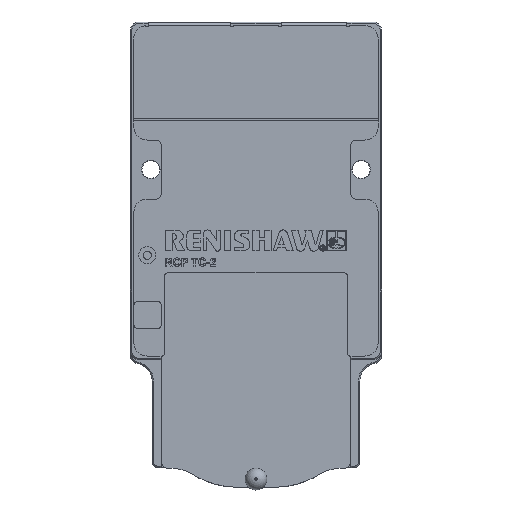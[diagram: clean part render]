
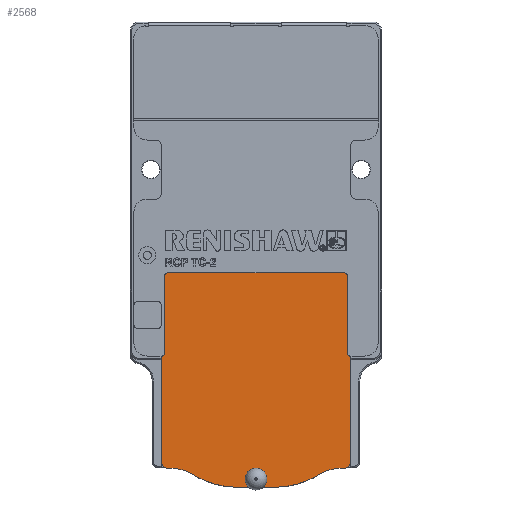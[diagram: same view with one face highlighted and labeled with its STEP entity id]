
A CAD part, top view. The second image highlights one B-rep face of the part: STEP entity #2568.
In plain terms, the highlighted planar face has unit normal (0, 0, 1).
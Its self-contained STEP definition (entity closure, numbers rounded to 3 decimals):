
#902=FACE_BOUND('',#3396,.T.);
#903=FACE_BOUND('',#3397,.T.);
#1207=CIRCLE('',#7696,32.071);
#1208=CIRCLE('',#7697,32.071);
#1209=CIRCLE('',#7698,15.);
#1210=CIRCLE('',#7699,2.);
#1211=CIRCLE('',#7700,8.2);
#1212=CIRCLE('',#7701,8.2);
#1213=CIRCLE('',#7702,2.);
#1214=CIRCLE('',#7703,15.);
#1215=CIRCLE('',#7704,2.8);
#1702=LINE('',#11897,#2226);
#1703=LINE('',#11903,#2227);
#1704=LINE('',#11907,#2228);
#1705=LINE('',#11911,#2229);
#1706=LINE('',#11915,#2230);
#1707=LINE('',#11919,#2231);
#2226=VECTOR('',#9208,1.);
#2227=VECTOR('',#9213,1.);
#2228=VECTOR('',#9216,1.);
#2229=VECTOR('',#9219,1.);
#2230=VECTOR('',#9222,1.);
#2231=VECTOR('',#9225,1.);
#2568=ADVANCED_FACE('',(#902,#903),#2777,.T.);
#2777=PLANE('',#7705);
#3396=EDGE_LOOP('',(#5098,#5099,#5100,#5101,#5102,#5103,#5104,#5105,#5106,
#5107,#5108,#5109,#5110,#5111));
#3397=EDGE_LOOP('',(#5112));
#5098=ORIENTED_EDGE('',*,*,#6910,.F.);
#5099=ORIENTED_EDGE('',*,*,#6911,.F.);
#5100=ORIENTED_EDGE('',*,*,#6912,.T.);
#5101=ORIENTED_EDGE('',*,*,#6913,.T.);
#5102=ORIENTED_EDGE('',*,*,#6914,.F.);
#5103=ORIENTED_EDGE('',*,*,#6915,.T.);
#5104=ORIENTED_EDGE('',*,*,#6916,.F.);
#5105=ORIENTED_EDGE('',*,*,#6917,.T.);
#5106=ORIENTED_EDGE('',*,*,#6918,.F.);
#5107=ORIENTED_EDGE('',*,*,#6919,.T.);
#5108=ORIENTED_EDGE('',*,*,#6920,.F.);
#5109=ORIENTED_EDGE('',*,*,#6921,.T.);
#5110=ORIENTED_EDGE('',*,*,#6922,.T.);
#5111=ORIENTED_EDGE('',*,*,#6923,.T.);
#5112=ORIENTED_EDGE('',*,*,#6924,.T.);
#5995=VERTEX_POINT('',#11895);
#5996=VERTEX_POINT('',#11896);
#5997=VERTEX_POINT('',#11898);
#5998=VERTEX_POINT('',#11900);
#5999=VERTEX_POINT('',#11902);
#6000=VERTEX_POINT('',#11904);
#6001=VERTEX_POINT('',#11906);
#6002=VERTEX_POINT('',#11908);
#6003=VERTEX_POINT('',#11910);
#6004=VERTEX_POINT('',#11912);
#6005=VERTEX_POINT('',#11914);
#6006=VERTEX_POINT('',#11916);
#6007=VERTEX_POINT('',#11918);
#6008=VERTEX_POINT('',#11920);
#6009=VERTEX_POINT('',#11923);
#6910=EDGE_CURVE('',#5995,#5996,#1207,.T.);
#6911=EDGE_CURVE('',#5997,#5995,#1702,.T.);
#6912=EDGE_CURVE('',#5997,#5998,#1208,.T.);
#6913=EDGE_CURVE('',#5998,#5999,#1209,.T.);
#6914=EDGE_CURVE('',#6000,#5999,#1703,.T.);
#6915=EDGE_CURVE('',#6000,#6001,#1210,.T.);
#6916=EDGE_CURVE('',#6002,#6001,#1704,.T.);
#6917=EDGE_CURVE('',#6002,#6003,#1211,.T.);
#6918=EDGE_CURVE('',#6004,#6003,#1705,.T.);
#6919=EDGE_CURVE('',#6004,#6005,#1212,.T.);
#6920=EDGE_CURVE('',#6006,#6005,#1706,.T.);
#6921=EDGE_CURVE('',#6006,#6007,#1213,.T.);
#6922=EDGE_CURVE('',#6007,#6008,#1707,.T.);
#6923=EDGE_CURVE('',#6008,#5996,#1214,.T.);
#6924=EDGE_CURVE('',#6009,#6009,#1215,.T.);
#7696=AXIS2_PLACEMENT_3D('',#11894,#9206,#9207);
#7697=AXIS2_PLACEMENT_3D('',#11899,#9209,#9210);
#7698=AXIS2_PLACEMENT_3D('',#11901,#9211,#9212);
#7699=AXIS2_PLACEMENT_3D('',#11905,#9214,#9215);
#7700=AXIS2_PLACEMENT_3D('',#11909,#9217,#9218);
#7701=AXIS2_PLACEMENT_3D('',#11913,#9220,#9221);
#7702=AXIS2_PLACEMENT_3D('',#11917,#9223,#9224);
#7703=AXIS2_PLACEMENT_3D('',#11921,#9226,#9227);
#7704=AXIS2_PLACEMENT_3D('',#11922,#9228,#9229);
#7705=AXIS2_PLACEMENT_3D('',#11924,#9230,#9231);
#9206=DIRECTION('',(0.,0.,-1.));
#9207=DIRECTION('',(-1.,0.,0.));
#9208=DIRECTION('',(-1.,0.,0.));
#9209=DIRECTION('',(0.,0.,1.));
#9210=DIRECTION('',(1.,0.,0.));
#9211=DIRECTION('',(0.,0.,-1.));
#9212=DIRECTION('',(1.,0.,0.));
#9213=DIRECTION('',(-1.,0.,0.));
#9214=DIRECTION('',(0.,0.,1.));
#9215=DIRECTION('',(1.,0.,0.));
#9216=DIRECTION('',(0.,-1.,0.));
#9217=DIRECTION('',(0.,0.,1.));
#9218=DIRECTION('',(1.,0.,0.));
#9219=DIRECTION('',(1.,0.,0.));
#9220=DIRECTION('',(0.,0.,1.));
#9221=DIRECTION('',(1.,0.,0.));
#9222=DIRECTION('',(0.,1.,0.));
#9223=DIRECTION('',(0.,0.,1.));
#9224=DIRECTION('',(1.,0.,0.));
#9225=DIRECTION('',(1.,0.,0.));
#9226=DIRECTION('',(0.,0.,-1.));
#9227=DIRECTION('',(1.,0.,0.));
#9228=DIRECTION('',(0.,0.,-1.));
#9229=DIRECTION('',(1.,0.,0.));
#9230=DIRECTION('',(0.,0.,1.));
#9231=DIRECTION('',(1.,0.,0.));
#11894=CARTESIAN_POINT('',(-6.45,0.421,7.25));
#11895=CARTESIAN_POINT('',(-6.45,-31.65,7.25));
#11896=CARTESIAN_POINT('',(-23.278,-26.881,7.25));
#11897=CARTESIAN_POINT('',(0.,-31.65,7.25));
#11898=CARTESIAN_POINT('',(6.45,-31.65,7.25));
#11899=CARTESIAN_POINT('',(6.45,0.421,7.25));
#11900=CARTESIAN_POINT('',(23.278,-26.881,7.25));
#11901=CARTESIAN_POINT('',(31.148,-39.65,7.25));
#11902=CARTESIAN_POINT('',(31.148,-24.65,7.25));
#11903=CARTESIAN_POINT('',(34.45,-24.65,7.25));
#11904=CARTESIAN_POINT('',(32.45,-24.65,7.25));
#11905=CARTESIAN_POINT('',(32.45,-22.65,7.25));
#11906=CARTESIAN_POINT('',(34.45,-22.65,7.25));
#11907=CARTESIAN_POINT('',(34.45,16.35,7.25));
#11908=CARTESIAN_POINT('',(34.45,56.15,7.25));
#11909=CARTESIAN_POINT('',(26.25,56.15,7.25));
#11910=CARTESIAN_POINT('',(26.25,64.35,7.25));
#11911=CARTESIAN_POINT('',(0.,64.35,7.25));
#11912=CARTESIAN_POINT('',(-26.25,64.35,7.25));
#11913=CARTESIAN_POINT('',(-26.25,56.15,7.25));
#11914=CARTESIAN_POINT('',(-34.45,56.15,7.25));
#11915=CARTESIAN_POINT('',(-34.45,16.35,7.25));
#11916=CARTESIAN_POINT('',(-34.45,-22.65,7.25));
#11917=CARTESIAN_POINT('',(-32.45,-22.65,7.25));
#11918=CARTESIAN_POINT('',(-32.45,-24.65,7.25));
#11919=CARTESIAN_POINT('',(-34.45,-24.65,7.25));
#11920=CARTESIAN_POINT('',(-31.148,-24.65,7.25));
#11921=CARTESIAN_POINT('',(-31.148,-39.65,7.25));
#11922=CARTESIAN_POINT('',(0.,-28.65,7.25));
#11923=CARTESIAN_POINT('',(2.8,-28.65,7.25));
#11924=CARTESIAN_POINT('',(0.,16.35,7.25));
